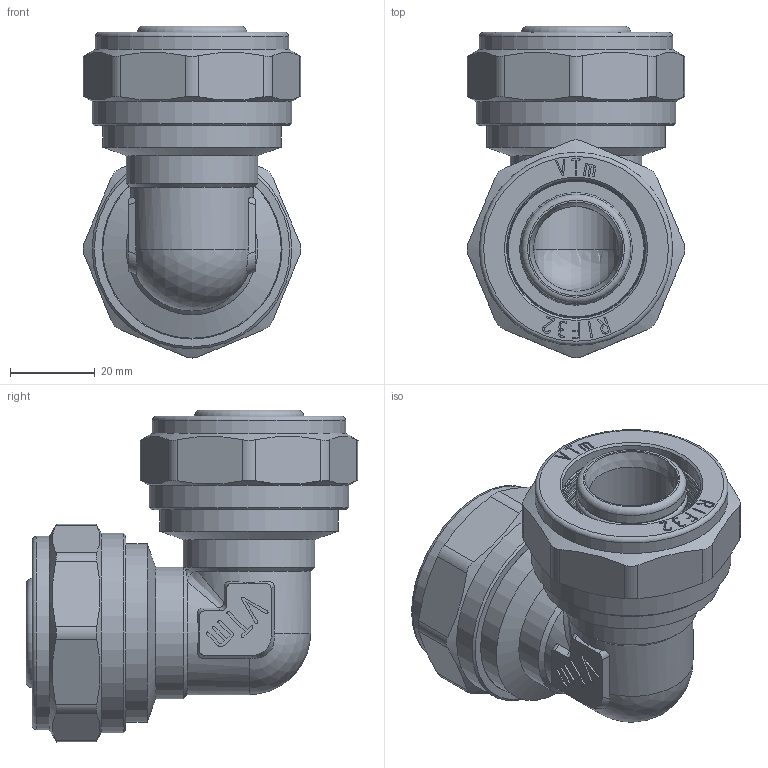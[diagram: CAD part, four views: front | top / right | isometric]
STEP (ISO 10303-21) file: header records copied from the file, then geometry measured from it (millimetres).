
FILE_DESCRIPTION(('STEP AP203'), '1');
FILE_NAME('VTm.351.N.003232', '', ('UNSPECIFIED'), ('UNSPECIFIED'), 'C3D Converter', 'C3D Toolkit', '');
FILE_SCHEMA(('CONFIG_CONTROL_DESIGN'));
Length unit declared in the file: millimetre
Products named in the file (1): ВР.302635.098.000 СБ
Bounding box: 51.3 x 78.15 x 78.15 mm (x, y, z)
Volume: 77028.6 mm3; surface area: 41315.2 mm2
Topology: 1 solids, 1 shells, 760 faces, 2093 edges, 1381 vertices
Faces by surface type: extrusion 336, plane 244, cylinder 88, torus 58, cone 28, bspline 4, sphere 2
Full cylindrical faces by diameter (mm): 20 x2, 22.8 x8, 25.8 x10, 26 x2, 31 x2, 32.1 x2, 32.2 x2, 32.7 x2, 40.376 x2, 42 x2, 45.5 x2, 47 x2
Entity records: 28166 total; most frequent: CARTESIAN_POINT 10804, ORIENTED_EDGE 4006, DIRECTION 2482, EDGE_CURVE 2003, VERTEX_POINT 1381, VECTOR 1224, B_SPLINE_CURVE_WITH_KNOTS 1185, EDGE_LOOP 898
